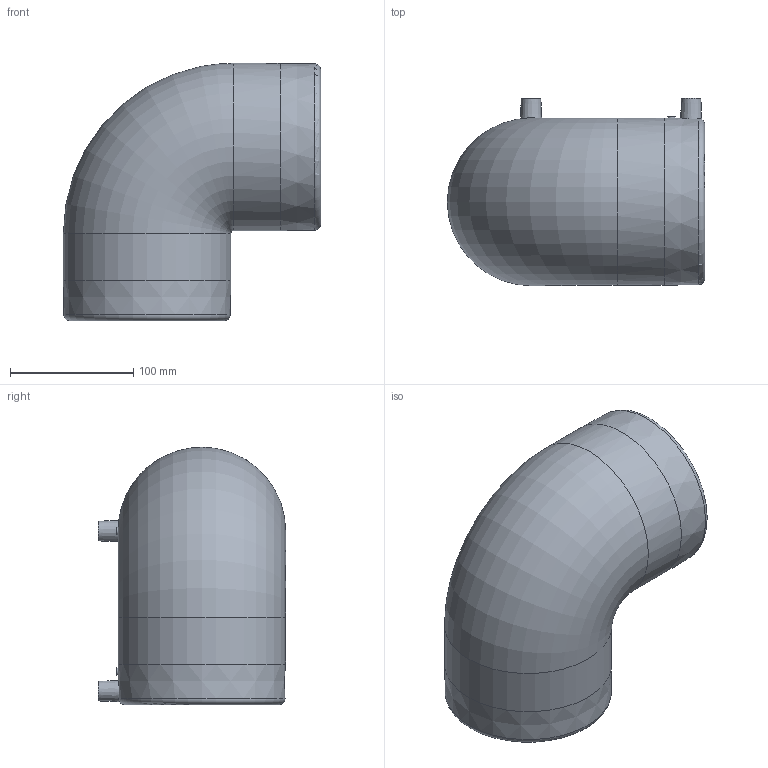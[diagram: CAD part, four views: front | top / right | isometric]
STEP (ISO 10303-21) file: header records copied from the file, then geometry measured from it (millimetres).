
FILE_DESCRIPTION(/* description */ ('Unknown'),/* implementation_level */ '2;1');
FILE_NAME(/* name */ 'GE9P110C',/* time_stamp */ '2021-02-11T16:09:18+01:00',/* author */ ('Unknown'),/* organization */ ('Unknown'),/* preprocessor_version */ 'ST-DEVELOPER v16.7',/* originating_system */ 'Solid Edge',/* authorisation */ 'Unknown');
FILE_SCHEMA (('AUTOMOTIVE_DESIGN {1 0 10303 214 3 1 1}'));
Length unit declared in the file: millimetre
Products named in the file (1): GE9P110C
Bounding box: 209 x 152 x 209 mm (x, y, z)
Volume: 1374332.5 mm3; surface area: 206493.6 mm2
Topology: 1 solids, 1 shells, 32 faces, 65 edges, 43 vertices
Faces by surface type: plane 12, cylinder 12, cone 4, torus 4
Full cylindrical faces by diameter (mm): 4 x2, 6 x2, 12 x2, 110 x2, 136 x2
Entity records: 823 total; most frequent: CARTESIAN_POINT 237, DIRECTION 120, ORIENTED_EDGE 78, AXIS2_PLACEMENT_3D 60, EDGE_LOOP 59, FACE_BOUND 59, EDGE_CURVE 39, VERTEX_POINT 34
